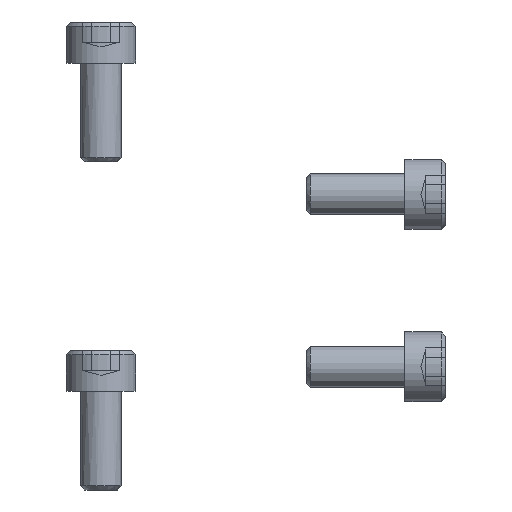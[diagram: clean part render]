
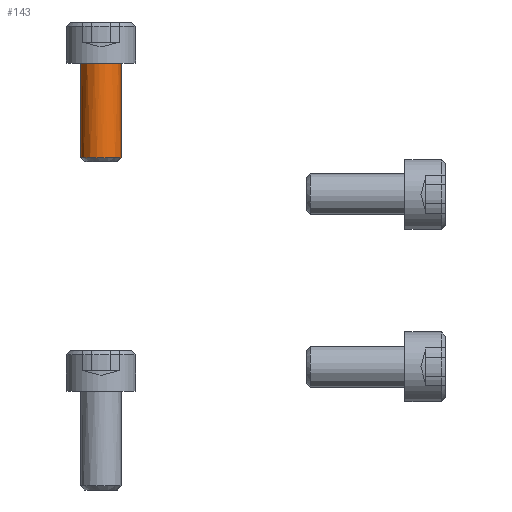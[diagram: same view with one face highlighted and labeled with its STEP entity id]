
A CAD part, left-side view. The second image highlights one B-rep face of the part: STEP entity #143.
In plain terms, the highlighted free-form (B-spline) face has degree [2, 1] with [9, 2] control points.
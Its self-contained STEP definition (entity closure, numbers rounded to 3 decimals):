
#143=ADVANCED_FACE('',(#243),#2989,.T.);
#243=FACE_OUTER_BOUND('',#347,.T.);
#347=EDGE_LOOP('',(#623,#624,#625,#626));
#623=ORIENTED_EDGE('',*,*,#2170,.T.);
#624=ORIENTED_EDGE('',*,*,#2171,.T.);
#625=ORIENTED_EDGE('',*,*,#2172,.T.);
#626=ORIENTED_EDGE('',*,*,#2173,.T.);
#906=(
BOUNDED_CURVE()
B_SPLINE_CURVE(2,(#4723,#4724,#4725,#4726,#4727),.UNSPECIFIED.,.F.,.F.)
B_SPLINE_CURVE_WITH_KNOTS((3,2,3),(0.,3.927,7.854),
 .UNSPECIFIED.)
CURVE()
GEOMETRIC_REPRESENTATION_ITEM()
RATIONAL_B_SPLINE_CURVE((1.,0.707,1.,0.707,1.))
REPRESENTATION_ITEM('')
);
#907=(
BOUNDED_CURVE()
B_SPLINE_CURVE(2,(#4734,#4735,#4736,#4737,#4738),.UNSPECIFIED.,.F.,.F.)
B_SPLINE_CURVE_WITH_KNOTS((3,2,3),(-7.854,-3.927,0.),
 .UNSPECIFIED.)
CURVE()
GEOMETRIC_REPRESENTATION_ITEM()
RATIONAL_B_SPLINE_CURVE((1.,0.707,1.,0.707,1.))
REPRESENTATION_ITEM('')
);
#934=(
BOUNDED_CURVE()
B_SPLINE_CURVE(2,(#5027,#5028,#5029,#5030,#5031),.UNSPECIFIED.,.F.,.F.)
B_SPLINE_CURVE_WITH_KNOTS((3,2,3),(-7.854,-3.927,0.),
 .UNSPECIFIED.)
CURVE()
GEOMETRIC_REPRESENTATION_ITEM()
RATIONAL_B_SPLINE_CURVE((1.,0.707,1.,0.707,1.))
REPRESENTATION_ITEM('')
);
#1199=PCURVE('',#2989,#1631);
#1200=PCURVE('',#2989,#1632);
#1201=PCURVE('',#2989,#1633);
#1202=PCURVE('',#2989,#1634);
#1206=PCURVE('',#2990,#1638);
#1275=PCURVE('',#2994,#1707);
#1277=PCURVE('',#2994,#1709);
#1282=PCURVE('',#2950,#1714);
#1631=DEFINITIONAL_REPRESENTATION('',(#2536),#5714);
#1632=DEFINITIONAL_REPRESENTATION('',(#2537),#5714);
#1633=DEFINITIONAL_REPRESENTATION('',(#2539),#5714);
#1634=DEFINITIONAL_REPRESENTATION('',(#2540),#5714);
#1638=DEFINITIONAL_REPRESENTATION('',(#2546),#5714);
#1707=DEFINITIONAL_REPRESENTATION('',(#2631),#5714);
#1709=DEFINITIONAL_REPRESENTATION('',(#2633),#5714);
#1714=DEFINITIONAL_REPRESENTATION('',(#934),#5714);
#1954=SURFACE_CURVE('',#2535,(#1199,#1275),.PCURVE_S1.);
#1955=SURFACE_CURVE('',#906,(#1200,#1206),.PCURVE_S1.);
#1956=SURFACE_CURVE('',#2538,(#1201,#1277),.PCURVE_S1.);
#1957=SURFACE_CURVE('',#907,(#1202,#1282),.PCURVE_S1.);
#2170=EDGE_CURVE('',#2847,#2848,#1954,.T.);
#2171=EDGE_CURVE('',#2848,#2849,#1955,.T.);
#2172=EDGE_CURVE('',#2849,#2850,#1956,.T.);
#2173=EDGE_CURVE('',#2850,#2847,#1957,.T.);
#2535=B_SPLINE_CURVE_WITH_KNOTS('',1,(#4719,#4720),.UNSPECIFIED.,.F.,.F.,
(2,2),(-11.51,0.),.UNSPECIFIED.);
#2536=B_SPLINE_CURVE_WITH_KNOTS('',1,(#4721,#4722),.UNSPECIFIED.,.F.,.F.,
(2,2),(-11.51,0.),.UNSPECIFIED.);
#2537=B_SPLINE_CURVE_WITH_KNOTS('',1,(#4728,#4729),.UNSPECIFIED.,.F.,.F.,
(2,2),(0.,7.854),.UNSPECIFIED.);
#2538=B_SPLINE_CURVE_WITH_KNOTS('',1,(#4730,#4731),.UNSPECIFIED.,.F.,.F.,
(2,2),(-11.51,0.),.UNSPECIFIED.);
#2539=B_SPLINE_CURVE_WITH_KNOTS('',1,(#4732,#4733),.UNSPECIFIED.,.F.,.F.,
(2,2),(-11.51,0.),.UNSPECIFIED.);
#2540=B_SPLINE_CURVE_WITH_KNOTS('',1,(#4739,#4740),.UNSPECIFIED.,.F.,.F.,
(2,2),(-7.854,0.),.UNSPECIFIED.);
#2546=B_SPLINE_CURVE_WITH_KNOTS('',1,(#4756,#4757),.UNSPECIFIED.,.F.,.F.,
(2,2),(0.,7.854),.UNSPECIFIED.);
#2631=B_SPLINE_CURVE_WITH_KNOTS('',1,(#4994,#4995),.UNSPECIFIED.,.F.,.F.,
(2,2),(-11.51,0.),.UNSPECIFIED.);
#2633=B_SPLINE_CURVE_WITH_KNOTS('',1,(#5003,#5004),.UNSPECIFIED.,.F.,.F.,
(2,2),(-11.51,0.),.UNSPECIFIED.);
#2847=VERTEX_POINT('',#4653);
#2848=VERTEX_POINT('',#4654);
#2849=VERTEX_POINT('',#4655);
#2850=VERTEX_POINT('',#4656);
#2950=PLANE('',#3095);
#2989=(
BOUNDED_SURFACE()
B_SPLINE_SURFACE(2,1,((#4488,#4489),(#4490,#4491),(#4492,#4493),(#4494,#4495),
(#4496,#4497),(#4498,#4499),(#4500,#4501),(#4502,#4503),(#4504,#4505)),
 .UNSPECIFIED.,.T.,.F.,.F.)
B_SPLINE_SURFACE_WITH_KNOTS((3,2,2,2,3),(2,2),(0.,1.571,3.142,
4.712,6.283),(0.,13.814),.UNSPECIFIED.)
GEOMETRIC_REPRESENTATION_ITEM()
RATIONAL_B_SPLINE_SURFACE(((1.,1.),(0.707,0.707),
(1.,1.),(0.707,0.707),(1.,1.),(0.707,
0.707),(1.,1.),(0.707,0.707),(1.,1.)))
REPRESENTATION_ITEM('')
SURFACE()
);
#2990=(
BOUNDED_SURFACE()
B_SPLINE_SURFACE(2,1,((#4506,#4507),(#4508,#4509),(#4510,#4511),(#4512,#4513),
(#4514,#4515),(#4516,#4517),(#4518,#4519),(#4520,#4521),(#4522,#4523)),
 .UNSPECIFIED.,.T.,.F.,.F.)
B_SPLINE_SURFACE_WITH_KNOTS((3,2,2,2,3),(2,2),(0.,1.571,3.142,
4.712,6.283),(0.,3.891),.UNSPECIFIED.)
GEOMETRIC_REPRESENTATION_ITEM()
RATIONAL_B_SPLINE_SURFACE(((1.,1.),(0.707,0.707),
(1.,1.),(0.707,0.707),(1.,1.),(0.707,
0.707),(1.,1.),(0.707,0.707),(1.,1.)))
REPRESENTATION_ITEM('')
SURFACE()
);
#2994=(
BOUNDED_SURFACE()
B_SPLINE_SURFACE(2,1,((#4591,#4592),(#4593,#4594),(#4595,#4596),(#4597,#4598),
(#4599,#4600),(#4601,#4602),(#4603,#4604),(#4605,#4606),(#4607,#4608)),
 .UNSPECIFIED.,.T.,.F.,.F.)
B_SPLINE_SURFACE_WITH_KNOTS((3,2,2,2,3),(2,2),(0.,1.571,3.142,
4.712,6.283),(0.,13.814),.UNSPECIFIED.)
GEOMETRIC_REPRESENTATION_ITEM()
RATIONAL_B_SPLINE_SURFACE(((1.,1.),(0.707,0.707),
(1.,1.),(0.707,0.707),(1.,1.),(0.707,
0.707),(1.,1.),(0.707,0.707),(1.,1.)))
REPRESENTATION_ITEM('')
SURFACE()
);
#3095=AXIS2_PLACEMENT_3D('',#4609,#3165,$);
#3165=DIRECTION('',(1.,0.,0.));
#4488=CARTESIAN_POINT('',(-1.152,-2.5,0.));
#4489=CARTESIAN_POINT('',(12.662,-2.5,0.));
#4490=CARTESIAN_POINT('',(-1.152,-2.5,-2.5));
#4491=CARTESIAN_POINT('',(12.662,-2.5,-2.5));
#4492=CARTESIAN_POINT('',(-1.152,0.,-2.5));
#4493=CARTESIAN_POINT('',(12.662,0.,-2.5));
#4494=CARTESIAN_POINT('',(-1.152,2.5,-2.5));
#4495=CARTESIAN_POINT('',(12.662,2.5,-2.5));
#4496=CARTESIAN_POINT('',(-1.152,2.5,0.));
#4497=CARTESIAN_POINT('',(12.662,2.5,0.));
#4498=CARTESIAN_POINT('',(-1.152,2.5,2.5));
#4499=CARTESIAN_POINT('',(12.662,2.5,2.5));
#4500=CARTESIAN_POINT('',(-1.152,0.,2.5));
#4501=CARTESIAN_POINT('',(12.662,0.,2.5));
#4502=CARTESIAN_POINT('',(-1.152,-2.5,2.5));
#4503=CARTESIAN_POINT('',(12.662,-2.5,2.5));
#4504=CARTESIAN_POINT('',(-1.152,-2.5,0.));
#4505=CARTESIAN_POINT('',(12.662,-2.5,0.));
#4506=CARTESIAN_POINT('',(14.01,0.,0.));
#4507=CARTESIAN_POINT('',(11.258,-2.751,0.));
#4508=CARTESIAN_POINT('',(14.01,0.,0.));
#4509=CARTESIAN_POINT('',(11.258,-2.751,2.751));
#4510=CARTESIAN_POINT('',(14.01,0.,0.));
#4511=CARTESIAN_POINT('',(11.258,0.,2.751));
#4512=CARTESIAN_POINT('',(14.01,0.,0.));
#4513=CARTESIAN_POINT('',(11.258,2.751,2.751));
#4514=CARTESIAN_POINT('',(14.01,0.,0.));
#4515=CARTESIAN_POINT('',(11.258,2.751,0.));
#4516=CARTESIAN_POINT('',(14.01,0.,0.));
#4517=CARTESIAN_POINT('',(11.258,2.751,-2.751));
#4518=CARTESIAN_POINT('',(14.01,0.,0.));
#4519=CARTESIAN_POINT('',(11.258,0.,-2.751));
#4520=CARTESIAN_POINT('',(14.01,0.,0.));
#4521=CARTESIAN_POINT('',(11.258,-2.751,-2.751));
#4522=CARTESIAN_POINT('',(14.01,0.,0.));
#4523=CARTESIAN_POINT('',(11.258,-2.751,0.));
#4591=CARTESIAN_POINT('',(-1.152,2.5,0.));
#4592=CARTESIAN_POINT('',(12.662,2.5,0.));
#4593=CARTESIAN_POINT('',(-1.152,2.5,2.5));
#4594=CARTESIAN_POINT('',(12.662,2.5,2.5));
#4595=CARTESIAN_POINT('',(-1.152,0.,2.5));
#4596=CARTESIAN_POINT('',(12.662,0.,2.5));
#4597=CARTESIAN_POINT('',(-1.152,-2.5,2.5));
#4598=CARTESIAN_POINT('',(12.662,-2.5,2.5));
#4599=CARTESIAN_POINT('',(-1.152,-2.5,0.));
#4600=CARTESIAN_POINT('',(12.662,-2.5,0.));
#4601=CARTESIAN_POINT('',(-1.152,-2.5,-2.5));
#4602=CARTESIAN_POINT('',(12.662,-2.5,-2.5));
#4603=CARTESIAN_POINT('',(-1.152,0.,-2.5));
#4604=CARTESIAN_POINT('',(12.662,0.,-2.5));
#4605=CARTESIAN_POINT('',(-1.152,2.5,-2.5));
#4606=CARTESIAN_POINT('',(12.662,2.5,-2.5));
#4607=CARTESIAN_POINT('',(-1.152,2.5,0.));
#4608=CARTESIAN_POINT('',(12.662,2.5,0.));
#4609=CARTESIAN_POINT('',(0.,-5.101,5.101));
#4653=CARTESIAN_POINT('',(0.,0.,2.5));
#4654=CARTESIAN_POINT('',(11.51,0.,2.5));
#4655=CARTESIAN_POINT('',(11.51,0.,-2.5));
#4656=CARTESIAN_POINT('',(0.,0.,-2.5));
#4719=CARTESIAN_POINT('',(0.,0.,2.5));
#4720=CARTESIAN_POINT('',(11.51,0.,2.5));
#4721=CARTESIAN_POINT('',(4.712,1.152));
#4722=CARTESIAN_POINT('',(4.712,12.662));
#4723=CARTESIAN_POINT('',(11.51,0.,2.5));
#4724=CARTESIAN_POINT('',(11.51,2.5,2.5));
#4725=CARTESIAN_POINT('',(11.51,2.5,0.));
#4726=CARTESIAN_POINT('',(11.51,2.5,-2.5));
#4727=CARTESIAN_POINT('',(11.51,0.,-2.5));
#4728=CARTESIAN_POINT('',(4.712,12.662));
#4729=CARTESIAN_POINT('',(1.571,12.662));
#4730=CARTESIAN_POINT('',(11.51,0.,-2.5));
#4731=CARTESIAN_POINT('',(0.,0.,-2.5));
#4732=CARTESIAN_POINT('',(1.571,12.662));
#4733=CARTESIAN_POINT('',(1.571,1.152));
#4734=CARTESIAN_POINT('',(0.,0.,-2.5));
#4735=CARTESIAN_POINT('',(0.,2.5,-2.5));
#4736=CARTESIAN_POINT('',(0.,2.5,0.));
#4737=CARTESIAN_POINT('',(0.,2.5,2.5));
#4738=CARTESIAN_POINT('',(0.,0.,2.5));
#4739=CARTESIAN_POINT('',(1.571,1.152));
#4740=CARTESIAN_POINT('',(4.712,1.152));
#4756=CARTESIAN_POINT('',(1.571,3.536));
#4757=CARTESIAN_POINT('',(4.712,3.536));
#4994=CARTESIAN_POINT('',(1.571,1.152));
#4995=CARTESIAN_POINT('',(1.571,12.662));
#5003=CARTESIAN_POINT('',(4.712,12.662));
#5004=CARTESIAN_POINT('',(4.712,1.152));
#5027=CARTESIAN_POINT('',(5.875,0.));
#5028=CARTESIAN_POINT('',(5.875,2.5));
#5029=CARTESIAN_POINT('',(3.375,2.5));
#5030=CARTESIAN_POINT('',(0.875,2.5));
#5031=CARTESIAN_POINT('',(0.875,0.));
#5714=(
GEOMETRIC_REPRESENTATION_CONTEXT(2)
PARAMETRIC_REPRESENTATION_CONTEXT()
REPRESENTATION_CONTEXT('pspace','')
);
